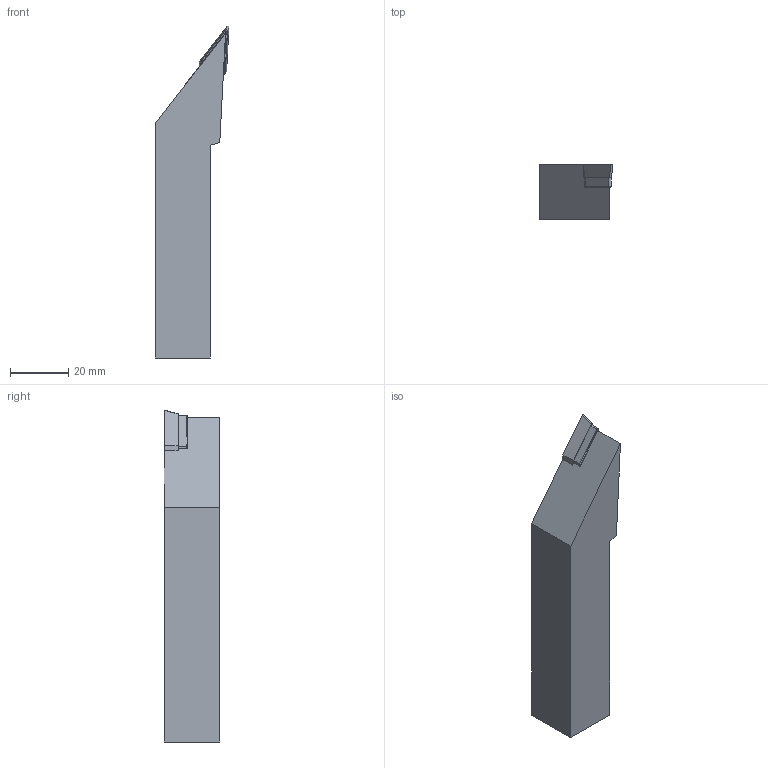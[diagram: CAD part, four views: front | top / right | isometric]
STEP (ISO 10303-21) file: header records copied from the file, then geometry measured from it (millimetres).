
FILE_DESCRIPTION (( 'STEP AP203' ), '1' );
FILE_NAME ('SVJBR12-3B-HAAS.STEP', '2020-11-06T08:01:52', ( '' ), ( '' ), 'SwSTEP 2.0', 'SolidWorks 2015', '' );
FILE_SCHEMA (( 'CONFIG_CONTROL_DESIGN' ));
Length unit declared in the file: millimetre
Products named in the file (5): SVJBR12-3B-HAAS; VBGT160404_ル遽; SV32S_ル遽; SVJBR12-3B-HAAS_ル遽
Assembly tree (4 placements, depth 3):
  SVJBR12-3B-HAAS
    SVJBR12-3B-HAAS
      SVJBR12-3B-HAAS_ル遽
      SV32S_ル遽
      VBGT160404_ル遽
Bounding box: 25.43 x 19.05 x 114.39 mm (x, y, z)
Volume: 36465.1 mm3; surface area: 9701 mm2
Topology: 3 solids, 3 shells, 41 faces, 95 edges, 61 vertices
Faces by surface type: plane 31, cylinder 7, cone 3
Full cylindrical faces by diameter (mm): 4.5 x1, 5.4 x1, 6.7 x1
Entity records: 1661 total; most frequent: CARTESIAN_POINT 213, DIRECTION 198, ORIENTED_EDGE 182, EDGE_CURVE 91, VECTOR 74, LINE 74, AXIS2_PLACEMENT_3D 62, VERTEX_POINT 61
